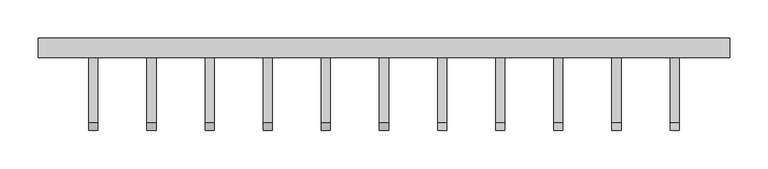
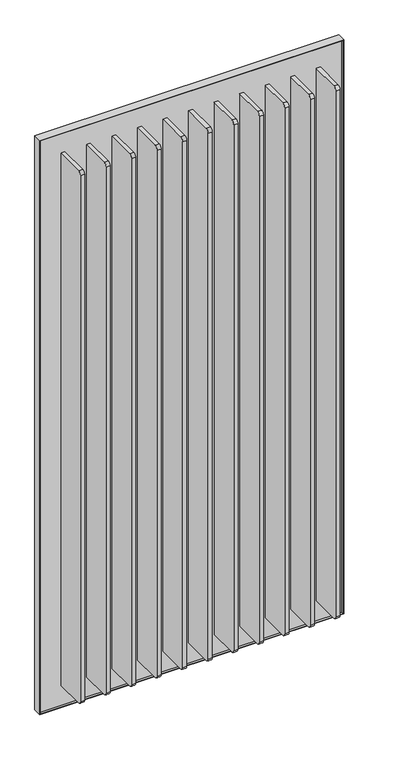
"""IFC4 building model written with IfcOpenShell, lengths in millimetres: proxy geometry, Frame_Cascade 1.3dm."""

import ifcopenshell
import ifcopenshell.guid

model = None  # the IFC model being written
_history = None  # IfcOwnerHistory: only IFC2X3 demands one
_inside = {}  # id of a spatial element -> (the spatial element, [elements in it])
_under = {}  # id of a project, library or spatial element -> (it, [spatial elements below it])
_declared = {}  # id of a project -> (the project, [libraries it declares])
_typed = {}  # id of a type object -> (the type object, [elements of that type])
_made_of = {}  # id of a material, layer set ... -> (it, [elements and type objects made of it])


def new_model(schema):
    """Start an empty IFC model of exactly this schema.

    Asked for "IFC4X3", IfcOpenShell would pick the latest addendum, in which some entities
    have other attributes; the version numbers below select the first issue.
    IFC2X3 requires an IfcOwnerHistory on every rooted entity: one is made here for all.
    """
    global model, _history
    if schema == "IFC4X3":
        model = ifcopenshell.file(schema_version=(4, 3, 0, 0))
    else:
        model = ifcopenshell.file(schema=schema)
    _inside.clear()
    _under.clear()
    _declared.clear()
    _typed.clear()
    _made_of.clear()
    _history = None
    if model.schema == "IFC2X3":
        org = make("IfcOrganization", Name="unknown")
        user = make(
            "IfcPersonAndOrganization",
            ThePerson=make("IfcPerson", FamilyName="unknown"),
            TheOrganization=org,
        )
        app = make(
            "IfcApplication",
            ApplicationDeveloper=org,
            Version="unknown",
            ApplicationFullName="unknown",
            ApplicationIdentifier="unknown",
        )
        _history = make(
            "IfcOwnerHistory",
            OwningUser=user,
            OwningApplication=app,
            ChangeAction="ADDED",
            CreationDate=0,
        )
    return model


def make(cls, **values):
    """One entity of the class cls with the attributes given. An attribute that is None is left unset."""
    return model.create_entity(
        cls, **{name: value for name, value in values.items() if value is not None}
    )


def rooted(cls, **values):
    """An entity with a GlobalId (a new one), such as an element, a storey or a relation."""
    return make(cls, GlobalId=ifcopenshell.guid.new(), OwnerHistory=_history, **values)


def si_unit(unit_type, name, prefix=None):
    """IfcSIUnit, for example si_unit("LENGTHUNIT", "METRE", prefix="MILLI")."""
    return make("IfcSIUnit", UnitType=unit_type, Prefix=prefix, Name=name)


def assignment(units):
    """IfcUnitAssignment: the units of a project."""
    return None if units is None else make("IfcUnitAssignment", Units=units)


def point(xyz):
    """IfcCartesianPoint."""
    return None if xyz is None else make("IfcCartesianPoint", Coordinates=xyz)


def direction(xyz):
    """IfcDirection."""
    return None if xyz is None else make("IfcDirection", DirectionRatios=xyz)


def frame(location, z_axis=None, x_axis=None):
    """IfcAxis2Placement3D, a coordinate frame: its origin and axes. An axis left out is left unset."""
    return make(
        "IfcAxis2Placement3D",
        Location=point(location),
        Axis=direction(z_axis),
        RefDirection=direction(x_axis),
    )


def frame_2d(location, x_axis=None):
    """IfcAxis2Placement2D, a coordinate frame in the plane: its origin and x axis."""
    return make(
        "IfcAxis2Placement2D", Location=point(location), RefDirection=direction(x_axis)
    )


def origin():
    """The frame at (0, 0, 0) with its axes left unset."""
    return frame((0.0, 0.0, 0.0))


def place(relative_to, where):
    """IfcLocalPlacement: puts the frame where relative to a parent placement (None: the world)."""
    return make(
        "IfcLocalPlacement", PlacementRelTo=relative_to, RelativePlacement=where
    )


def context(
    kind, dimensions, precision=None, world=None, true_north=None, identifier=None
):
    """IfcGeometricRepresentationContext, for example the 3D "Model" context."""
    return make(
        "IfcGeometricRepresentationContext",
        ContextIdentifier=identifier,
        ContextType=kind,
        CoordinateSpaceDimension=dimensions,
        Precision=precision,
        WorldCoordinateSystem=world,
        TrueNorth=true_north,
    )


def project(units=None, contexts=None):
    """IfcProject with its units and contexts."""
    return rooted(
        "IfcProject",
        Name="project",
        RepresentationContexts=contexts,
        UnitsInContext=assignment(units),
    )


def spatial(cls, under=None, at=None, **own):
    """A site, building, storey or space (cls), placed at a placement, below another one or the project."""
    s = rooted(cls, ObjectPlacement=at, **own)
    if under is not None:
        _under.setdefault(under.id(), (under, []))[1].append(s)
    return s


def polyline(points):
    """IfcPolyline through the points."""
    return make("IfcPolyline", Points=[point(p) for p in points])


def circle_curve(where, radius):
    """IfcCircle in the frame where."""
    return make("IfcCircle", Position=where, Radius=radius)


def trimmed(basis, trim1, trim2, sense, master):
    """IfcTrimmedCurve: the piece of a basis curve between two trims."""
    return make(
        "IfcTrimmedCurve",
        BasisCurve=basis,
        Trim1=trim1,
        Trim2=trim2,
        SenseAgreement=sense,
        MasterRepresentation=master,
    )


def segment(curve, same_sense, transition):
    """IfcCompositeCurveSegment."""
    return make(
        "IfcCompositeCurveSegment",
        Transition=transition,
        SameSense=same_sense,
        ParentCurve=curve,
    )


def composite_curve(segments, self_intersect=None):
    """IfcCompositeCurve: segments joined end to end."""
    return make("IfcCompositeCurve", Segments=segments, SelfIntersect=self_intersect)


def outline(outer, holes=None, kind="AREA"):
    """IfcArbitraryClosedProfileDef: a profile drawn as a closed curve; with holes, ...WithVoids."""
    if holes is None:
        return make("IfcArbitraryClosedProfileDef", ProfileType=kind, OuterCurve=outer)
    return make(
        "IfcArbitraryProfileDefWithVoids",
        ProfileType=kind,
        OuterCurve=outer,
        InnerCurves=holes,
    )


def extrude(swept, where, along, depth):
    """IfcExtrudedAreaSolid: the profile swept, set in the frame where, extruded along a direction by depth."""
    return make(
        "IfcExtrudedAreaSolid",
        SweptArea=swept,
        Position=where,
        ExtrudedDirection=direction(along),
        Depth=depth,
    )


def shape(context_of_items, identifier, shape_type, items):
    """IfcShapeRepresentation: the items that make up one representation, for example the "Body"."""
    return make(
        "IfcShapeRepresentation",
        ContextOfItems=context_of_items,
        RepresentationIdentifier=identifier,
        RepresentationType=shape_type,
        Items=items,
    )


def source(mapping_origin, context_of_items, identifier, shape_type, items):
    """IfcRepresentationMap: a shape defined once, which mapped items show again and again."""
    return make(
        "IfcRepresentationMap",
        MappingOrigin=mapping_origin,
        MappedRepresentation=shape(context_of_items, identifier, shape_type, items),
    )


def transform(
    local_origin,
    x_axis=None,
    y_axis=None,
    z_axis=None,
    scale=None,
    scale2=None,
    scale3=None,
    uniform=True,
):
    """IfcCartesianTransformationOperator3D, or its non-uniform kind. x_axis, y_axis, z_axis: its Axis1, 2, 3."""
    if uniform:
        return make(
            "IfcCartesianTransformationOperator3D",
            Axis1=direction(x_axis),
            Axis2=direction(y_axis),
            LocalOrigin=point(local_origin),
            Scale=scale,
            Axis3=direction(z_axis),
        )
    return make(
        "IfcCartesianTransformationOperator3DnonUniform",
        Axis1=direction(x_axis),
        Axis2=direction(y_axis),
        LocalOrigin=point(local_origin),
        Scale=scale,
        Axis3=direction(z_axis),
        Scale2=scale2,
        Scale3=scale3,
    )


def mapped(mapping_source, mapping_target):
    """IfcMappedItem: shows the shape of a source again, moved by a transform."""
    return make(
        "IfcMappedItem", MappingSource=mapping_source, MappingTarget=mapping_target
    )


def made_of(thing, what):
    """Note that an element or type object is made of a material, layer set ...; save() writes the relation."""
    if what is not None:
        _made_of.setdefault(what.id(), (what, []))[1].append(thing)
    return thing


def element(
    cls,
    number,
    at=None,
    inside=None,
    cuts=None,
    type_object=None,
    material=None,
    context=None,
    identifier="Body",
    shape_type=None,
    held_by="IfcProductDefinitionShape",
    body=None,
    shapes=None,
    **own,
):
    """One element of the class cls, such as IfcWall. Its Tag is "e" and its number.

    at: its placement. inside: the storey or other place that contains it. cuts: it is an
    opening in that element (IfcRelVoidsElement). A single representation is given by context,
    identifier, shape_type and body (its items); several are given by shapes. held_by: the class
    of the entity that holds the representations. save() writes the other relations.
    """
    e = rooted(cls, Tag="e%d" % number, ObjectPlacement=at, **own)
    if body is not None:
        shapes = [shape(context, identifier, shape_type, body)]
    if shapes is not None:
        e.Representation = make(held_by, Representations=shapes)
    if inside is not None:
        _inside.setdefault(inside.id(), (inside, []))[1].append(e)
    if cuts is not None:
        rooted(
            "IfcRelVoidsElement", RelatingBuildingElement=cuts, RelatedOpeningElement=e
        )
    if type_object is not None:
        _typed.setdefault(type_object.id(), (type_object, []))[1].append(e)
    return made_of(e, material)


def aggregate(whole, parts):
    """IfcRelAggregates: a whole, such as a stair, and the parts it consists of."""
    return rooted("IfcRelAggregates", RelatingObject=whole, RelatedObjects=parts)


def save(model, path):
    """Write the relations noted so far, then the file.

    IfcRelAggregates (storeys below a building ...), IfcRelContainedInSpatialStructure (elements
    in a storey), IfcRelDefinesByType, IfcRelAssociatesMaterial and IfcRelDeclares: one each for
    every whole, place, type object, material and project.
    """
    for whole, parts in _under.values():
        aggregate(whole, parts)
    for where, things in _inside.values():
        rooted(
            "IfcRelContainedInSpatialStructure",
            RelatedElements=things,
            RelatingStructure=where,
        )
    for kind, things in _typed.values():
        rooted("IfcRelDefinesByType", RelatedObjects=things, RelatingType=kind)
    for what, things in _made_of.values():
        rooted("IfcRelAssociatesMaterial", RelatedObjects=things, RelatingMaterial=what)
    for by, libraries in _declared.values():
        rooted("IfcRelDeclares", RelatingContext=by, RelatedDefinitions=libraries)
    model.write(path)


def generic_models_ba566e24(model_context):
    return source(origin(), model_context, "Body", "SweptSolid", [
        extrude(outline(polyline([(8883.2241229, 114.2568681), (7983.2241229, 114.2568681), (7983.2241229, 126.2568681), (8883.2241229, 126.2568681), (8883.2241229, 114.2568681)])), frame((0.0, 0.0, 2548.8252099), z_axis=(0.0, 0.0, 1.0), x_axis=(1.0, 0.0, 0.0)), (0.0, 0.0, 1.0), 1800.0),
        extrude(outline(polyline([(2546.8252099, 7981.2241229), (2546.8252099, 8885.2241229), (4350.8252099, 8885.2241229), (4350.8252099, 7981.2241229), (2546.8252099, 7981.2241229)]), holes=[polyline([(2548.8252099, 7983.2241229), (4348.8252099, 7983.2241229), (4348.8252099, 8883.2241229), (2548.8252099, 8883.2241229), (2548.8252099, 7983.2241229)])]), frame((0.0, 107.5568681, 0.0), z_axis=(0.0, 1.0, 0.0), x_axis=(0.0, 0.0, 1.0)), (0.0, 0.0, 1.0), 25.4),
        extrude(outline(composite_curve([segment(trimmed(circle_curve(frame_2d((22.2568681, 2622.8252099)), 10.0), [point((22.2568681, 2612.8252099))], [point((12.2568681, 2622.8252099))], False, "CARTESIAN"), True, "CONTINUOUS"), segment(polyline([(12.2568681, 2622.8252099), (12.2568681, 4274.8252099)]), True, "CONTINUOUS"), segment(trimmed(circle_curve(frame_2d((22.2568681, 4274.8252099)), 10.0), [point((12.2568681, 4274.8252099))], [point((22.2568681, 4284.8252099))], False, "CARTESIAN"), True, "CONTINUOUS"), segment(polyline([(22.2568681, 4284.8252099), (114.2568681, 4284.8252099), (114.2568681, 2612.8252099), (22.2568681, 2612.8252099)]), True, "CONTINUOUS")], self_intersect=False)), frame((8351.2241229, 0.0, 0.0), z_axis=(1.0, 0.0, 0.0), x_axis=(0.0, 1.0, 0.0)), (0.0, 0.0, 1.0), 12.0),
        extrude(outline(composite_curve([segment(trimmed(circle_curve(frame_2d((22.2568681, 2622.8252099)), 10.0), [point((22.2568681, 2612.8252099))], [point((12.2568681, 2622.8252099))], False, "CARTESIAN"), True, "CONTINUOUS"), segment(polyline([(12.2568681, 2622.8252099), (12.2568681, 4274.8252099)]), True, "CONTINUOUS"), segment(trimmed(circle_curve(frame_2d((22.2568681, 4274.8252099)), 10.0), [point((12.2568681, 4274.8252099))], [point((22.2568681, 4284.8252099))], False, "CARTESIAN"), True, "CONTINUOUS"), segment(polyline([(22.2568681, 4284.8252099), (114.2568681, 4284.8252099), (114.2568681, 2612.8252099), (22.2568681, 2612.8252099)]), True, "CONTINUOUS")], self_intersect=False)), frame((8199.2241229, 0.0, 0.0), z_axis=(1.0, 0.0, 0.0), x_axis=(0.0, 1.0, 0.0)), (0.0, 0.0, 1.0), 12.0),
        extrude(outline(composite_curve([segment(trimmed(circle_curve(frame_2d((22.2568681, 2622.8252099)), 10.0), [point((22.2568681, 2612.8252099))], [point((12.2568681, 2622.8252099))], False, "CARTESIAN"), True, "CONTINUOUS"), segment(polyline([(12.2568681, 2622.8252099), (12.2568681, 4274.8252099)]), True, "CONTINUOUS"), segment(trimmed(circle_curve(frame_2d((22.2568681, 4274.8252099)), 10.0), [point((12.2568681, 4274.8252099))], [point((22.2568681, 4284.8252099))], False, "CARTESIAN"), True, "CONTINUOUS"), segment(polyline([(22.2568681, 4284.8252099), (114.2568681, 4284.8252099), (114.2568681, 2612.8252099), (22.2568681, 2612.8252099)]), True, "CONTINUOUS")], self_intersect=False)), frame((8427.2241229, 0.0, 0.0), z_axis=(1.0, 0.0, 0.0), x_axis=(0.0, 1.0, 0.0)), (0.0, 0.0, 1.0), 12.0),
        extrude(outline(composite_curve([segment(trimmed(circle_curve(frame_2d((22.2568681, 2622.8252099)), 10.0), [point((22.2568681, 2612.8252099))], [point((12.2568681, 2622.8252099))], False, "CARTESIAN"), True, "CONTINUOUS"), segment(polyline([(12.2568681, 2622.8252099), (12.2568681, 4274.8252099)]), True, "CONTINUOUS"), segment(trimmed(circle_curve(frame_2d((22.2568681, 4274.8252099)), 10.0), [point((12.2568681, 4274.8252099))], [point((22.2568681, 4284.8252099))], False, "CARTESIAN"), True, "CONTINUOUS"), segment(polyline([(22.2568681, 4284.8252099), (114.2568681, 4284.8252099), (114.2568681, 2612.8252099), (22.2568681, 2612.8252099)]), True, "CONTINUOUS")], self_intersect=False)), frame((8123.2241229, 0.0, 0.0), z_axis=(1.0, 0.0, 0.0), x_axis=(0.0, 1.0, 0.0)), (0.0, 0.0, 1.0), 12.0),
        extrude(outline(composite_curve([segment(trimmed(circle_curve(frame_2d((22.2568681, 2622.8252099)), 10.0), [point((22.2568681, 2612.8252099))], [point((12.2568681, 2622.8252099))], False, "CARTESIAN"), True, "CONTINUOUS"), segment(polyline([(12.2568681, 2622.8252099), (12.2568681, 4274.8252099)]), True, "CONTINUOUS"), segment(trimmed(circle_curve(frame_2d((22.2568681, 4274.8252099)), 10.0), [point((12.2568681, 4274.8252099))], [point((22.2568681, 4284.8252099))], False, "CARTESIAN"), True, "CONTINUOUS"), segment(polyline([(22.2568681, 4284.8252099), (114.2568681, 4284.8252099), (114.2568681, 2612.8252099), (22.2568681, 2612.8252099)]), True, "CONTINUOUS")], self_intersect=False)), frame((8275.2241229, 0.0, 0.0), z_axis=(1.0, 0.0, 0.0), x_axis=(0.0, 1.0, 0.0)), (0.0, 0.0, 1.0), 12.0),
        extrude(outline(composite_curve([segment(trimmed(circle_curve(frame_2d((22.2568681, 2622.8252099)), 10.0), [point((22.2568681, 2612.8252099))], [point((12.2568681, 2622.8252099))], False, "CARTESIAN"), True, "CONTINUOUS"), segment(polyline([(12.2568681, 2622.8252099), (12.2568681, 4274.8252099)]), True, "CONTINUOUS"), segment(trimmed(circle_curve(frame_2d((22.2568681, 4274.8252099)), 10.0), [point((12.2568681, 4274.8252099))], [point((22.2568681, 4284.8252099))], False, "CARTESIAN"), True, "CONTINUOUS"), segment(polyline([(22.2568681, 4284.8252099), (114.2568681, 4284.8252099), (114.2568681, 2612.8252099), (22.2568681, 2612.8252099)]), True, "CONTINUOUS")], self_intersect=False)), frame((8047.2241229, 0.0, 0.0), z_axis=(1.0, 0.0, 0.0), x_axis=(0.0, 1.0, 0.0)), (0.0, 0.0, 1.0), 12.0),
        extrude(outline(composite_curve([segment(polyline([(22.2568681, 4284.8252099), (114.2568681, 4284.8252099), (114.2568681, 2612.8252099), (22.2568681, 2612.8252099)]), True, "CONTINUOUS"), segment(trimmed(circle_curve(frame_2d((22.2568681, 2622.8252099)), 10.0), [point((22.2568681, 2612.8252099))], [point((12.2568681, 2622.8252099))], False, "CARTESIAN"), True, "CONTINUOUS"), segment(polyline([(12.2568681, 2622.8252099), (12.2568681, 4274.8252099)]), True, "CONTINUOUS"), segment(trimmed(circle_curve(frame_2d((22.2568681, 4274.8252099)), 10.0), [point((12.2568681, 4274.8252099))], [point((22.2568681, 4284.8252099))], False, "CARTESIAN"), True, "CONTINUOUS")], self_intersect=False)), frame((8807.2241229, 0.0, 0.0), z_axis=(1.0, 0.0, 0.0), x_axis=(0.0, 1.0, 0.0)), (0.0, 0.0, 1.0), 12.0),
        extrude(outline(composite_curve([segment(polyline([(22.2568681, 4284.8252099), (114.2568681, 4284.8252099), (114.2568681, 2612.8252099), (22.2568681, 2612.8252099)]), True, "CONTINUOUS"), segment(trimmed(circle_curve(frame_2d((22.2568681, 2622.8252099)), 10.0), [point((22.2568681, 2612.8252099))], [point((12.2568681, 2622.8252099))], False, "CARTESIAN"), True, "CONTINUOUS"), segment(polyline([(12.2568681, 2622.8252099), (12.2568681, 4274.8252099)]), True, "CONTINUOUS"), segment(trimmed(circle_curve(frame_2d((22.2568681, 4274.8252099)), 10.0), [point((12.2568681, 4274.8252099))], [point((22.2568681, 4284.8252099))], False, "CARTESIAN"), True, "CONTINUOUS")], self_intersect=False)), frame((8731.2241229, 0.0, 0.0), z_axis=(1.0, 0.0, 0.0), x_axis=(0.0, 1.0, 0.0)), (0.0, 0.0, 1.0), 12.0),
        extrude(outline(composite_curve([segment(polyline([(22.2568681, 4284.8252099), (114.2568681, 4284.8252099), (114.2568681, 2612.8252099), (22.2568681, 2612.8252099)]), True, "CONTINUOUS"), segment(trimmed(circle_curve(frame_2d((22.2568681, 2622.8252099)), 10.0), [point((22.2568681, 2612.8252099))], [point((12.2568681, 2622.8252099))], False, "CARTESIAN"), True, "CONTINUOUS"), segment(polyline([(12.2568681, 2622.8252099), (12.2568681, 4274.8252099)]), True, "CONTINUOUS"), segment(trimmed(circle_curve(frame_2d((22.2568681, 4274.8252099)), 10.0), [point((12.2568681, 4274.8252099))], [point((22.2568681, 4284.8252099))], False, "CARTESIAN"), True, "CONTINUOUS")], self_intersect=False)), frame((8655.2241229, 0.0, 0.0), z_axis=(1.0, 0.0, 0.0), x_axis=(0.0, 1.0, 0.0)), (0.0, 0.0, 1.0), 12.0),
        extrude(outline(composite_curve([segment(polyline([(22.2568681, 4284.8252099), (114.2568681, 4284.8252099), (114.2568681, 2612.8252099), (22.2568681, 2612.8252099)]), True, "CONTINUOUS"), segment(trimmed(circle_curve(frame_2d((22.2568681, 2622.8252099)), 10.0), [point((22.2568681, 2612.8252099))], [point((12.2568681, 2622.8252099))], False, "CARTESIAN"), True, "CONTINUOUS"), segment(polyline([(12.2568681, 2622.8252099), (12.2568681, 4274.8252099)]), True, "CONTINUOUS"), segment(trimmed(circle_curve(frame_2d((22.2568681, 4274.8252099)), 10.0), [point((12.2568681, 4274.8252099))], [point((22.2568681, 4284.8252099))], False, "CARTESIAN"), True, "CONTINUOUS")], self_intersect=False)), frame((8579.2241229, 0.0, 0.0), z_axis=(1.0, 0.0, 0.0), x_axis=(0.0, 1.0, 0.0)), (0.0, 0.0, 1.0), 12.0),
        extrude(outline(composite_curve([segment(polyline([(22.2568681, 4284.8252099), (114.2568681, 4284.8252099), (114.2568681, 2612.8252099), (22.2568681, 2612.8252099)]), True, "CONTINUOUS"), segment(trimmed(circle_curve(frame_2d((22.2568681, 2622.8252099)), 10.0), [point((22.2568681, 2612.8252099))], [point((12.2568681, 2622.8252099))], False, "CARTESIAN"), True, "CONTINUOUS"), segment(polyline([(12.2568681, 2622.8252099), (12.2568681, 4274.8252099)]), True, "CONTINUOUS"), segment(trimmed(circle_curve(frame_2d((22.2568681, 4274.8252099)), 10.0), [point((12.2568681, 4274.8252099))], [point((22.2568681, 4284.8252099))], False, "CARTESIAN"), True, "CONTINUOUS")], self_intersect=False)), frame((8503.2241229, 0.0, 0.0), z_axis=(1.0, 0.0, 0.0), x_axis=(0.0, 1.0, 0.0)), (0.0, 0.0, 1.0), 12.0),
    ])


if __name__ == "__main__":
    model = new_model("IFC4")
    model_context = context("Model", 3, world=origin())
    ifc_project = project(units=[si_unit("LENGTHUNIT", "METRE", prefix="MILLI")], contexts=[model_context])
    site = spatial("IfcSite", under=ifc_project)
    building = spatial("IfcBuilding", under=site)
    placement = place(None, origin())
    generic_models_shape = generic_models_ba566e24(model_context)
    element("IfcBuildingElementProxy", 1, Name="Frame_Cascade 1.3dm", ObjectType="Frame_Cascade 1.3dm", at=placement, inside=building, context=model_context, shape_type="MappedRepresentation", body=[
        mapped(generic_models_shape, transform((0.0, 0.0, 0.0), x_axis=(1.0, 0.0, 0.0), y_axis=(0.0, 1.0, 0.0), z_axis=(0.0, 0.0, 1.0))),
    ])
    save(model, "model.ifc")
